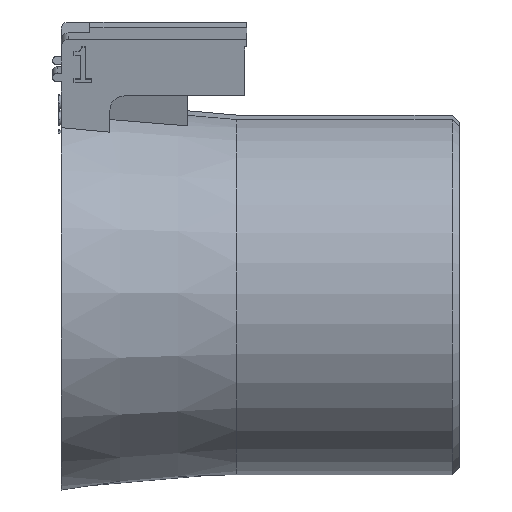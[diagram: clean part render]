
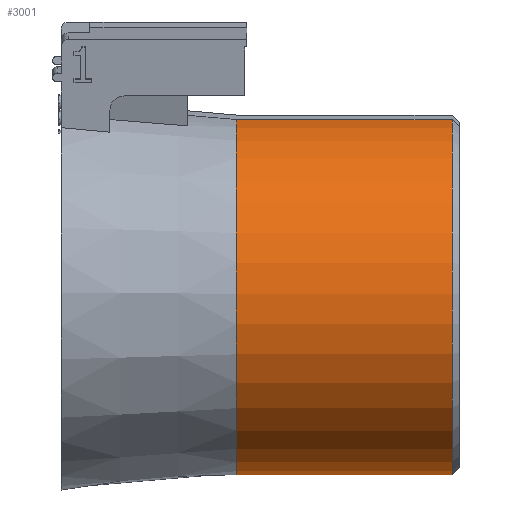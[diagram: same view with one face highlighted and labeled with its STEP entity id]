
A CAD part, front view. The second image highlights one B-rep face of the part: STEP entity #3001.
In plain terms, the highlighted cylindrical face has radius 12.5 mm (diameter 25 mm), a partial arc.
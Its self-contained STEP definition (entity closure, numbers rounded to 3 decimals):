
#49=CYLINDRICAL_SURFACE('',#3176,12.5);
#85=CIRCLE('',#3157,12.5);
#94=CIRCLE('',#3177,12.5);
#489=FACE_OUTER_BOUND('',#656,.T.);
#656=EDGE_LOOP('',(#2600,#2601,#2602,#2603));
#913=LINE('',#5119,#1186);
#935=LINE('',#5166,#1208);
#1186=VECTOR('',#3670,10.);
#1208=VECTOR('',#3706,10.);
#1462=VERTEX_POINT('',#5039);
#1465=VERTEX_POINT('',#5052);
#1486=VERTEX_POINT('',#5118);
#1504=VERTEX_POINT('',#5165);
#1839=EDGE_CURVE('',#1462,#1465,#85,.T.);
#1869=EDGE_CURVE('',#1486,#1465,#913,.T.);
#1894=EDGE_CURVE('',#1504,#1462,#935,.T.);
#1895=EDGE_CURVE('',#1486,#1504,#94,.T.);
#2600=ORIENTED_EDGE('',*,*,#1894,.F.);
#2601=ORIENTED_EDGE('',*,*,#1895,.F.);
#2602=ORIENTED_EDGE('',*,*,#1869,.T.);
#2603=ORIENTED_EDGE('',*,*,#1839,.F.);
#3001=ADVANCED_FACE('',(#489),#49,.T.);
#3157=AXIS2_PLACEMENT_3D('',#5053,#3624,#3625);
#3176=AXIS2_PLACEMENT_3D('',#5164,#3704,#3705);
#3177=AXIS2_PLACEMENT_3D('',#5167,#3707,#3708);
#3624=DIRECTION('center_axis',(-1.,0.,0.));
#3625=DIRECTION('ref_axis',(0.,-0.985,-0.174));
#3670=DIRECTION('',(-1.,0.,0.));
#3704=DIRECTION('center_axis',(-1.,0.,0.));
#3705=DIRECTION('ref_axis',(0.,-0.985,-0.174));
#3706=DIRECTION('',(-1.,0.,0.));
#3707=DIRECTION('center_axis',(1.,0.,0.));
#3708=DIRECTION('ref_axis',(0.,0.985,0.174));
#5039=CARTESIAN_POINT('',(11.43,0.358,-12.495));
#5052=CARTESIAN_POINT('',(11.43,-3.629,12.182));
#5053=CARTESIAN_POINT('Origin',(11.43,-1.459,-0.128));
#5118=CARTESIAN_POINT('',(26.5,-3.629,12.182));
#5119=CARTESIAN_POINT('',(19.215,-3.629,12.182));
#5164=CARTESIAN_POINT('Origin',(19.215,-1.459,-0.128));
#5165=CARTESIAN_POINT('',(26.5,0.358,-12.495));
#5166=CARTESIAN_POINT('',(19.215,0.358,-12.495));
#5167=CARTESIAN_POINT('Origin',(26.5,-1.459,-0.128));
